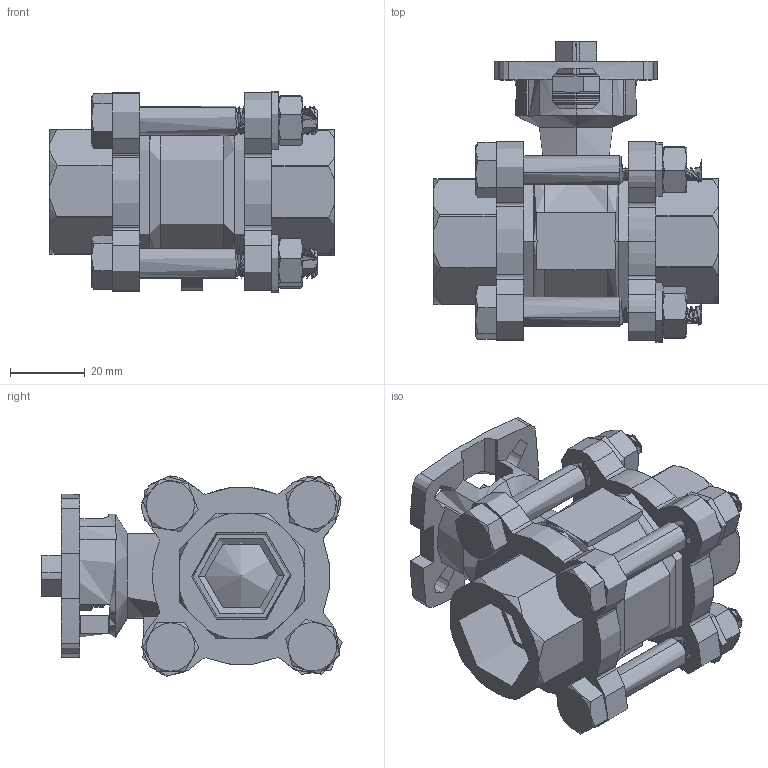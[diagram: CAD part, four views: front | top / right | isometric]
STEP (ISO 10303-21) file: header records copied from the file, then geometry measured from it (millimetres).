
FILE_DESCRIPTION (( 'STEP AP203' ), '1' );
FILE_NAME ('S3FDM-6.STEP', '2021-07-01T21:24:33', ( 'Owner' ), ( '' ), 'SwSTEP 2.0', 'SolidWorks 2017', '' );
FILE_SCHEMA (( 'CONFIG_CONTROL_DESIGN' ));
Length unit declared in the file: inch
Products named in the file (22): m8x55; m8 HEX NUT_91028A664; m8 STAINLESS STEEL FLAT WASHER; S3FDM-6; S3F-6-BODY; m8 HEX NUT; S3F-6-ENDCAP; m8x55_91287A158; m8 STAINLESS STEEL FLAT WASHER_90965A190
Assembly tree (23 placements, depth 2):
  m8 STAINLESS STEEL FLAT WASHER
  S3FDM-6
    S3F-6-BODY
    S3F-6-ENDCAP  x2
    m8x55_91287A158  x4
    m8 STAINLESS STEEL FLAT WASHER_90965A190  x4
    m8 HEX NUT_91028A664  x4
  m8 STAINLESS STEEL FLAT WASHER
  S3F-6-BODY
  m8 STAINLESS STEEL FLAT WASHER
Bounding box: 76.2 x 80.26 x 53.8 mm (x, y, z)
Volume: 109735.6 mm3; surface area: 55863.9 mm2
Topology: 15 solids, 17 shells, 747 faces, 2000 edges, 1302 vertices
Faces by surface type: cylinder 356, plane 183, cone 158, bspline 24, torus 20, sphere 6
Entity records: 23115 total; most frequent: CARTESIAN_POINT 12096, ORIENTED_EDGE 1886, DIRECTION 1790, EDGE_CURVE 943, AXIS2_PLACEMENT_3D 715, VERTEX_POINT 615, EDGE_LOOP 390, LINE 360
